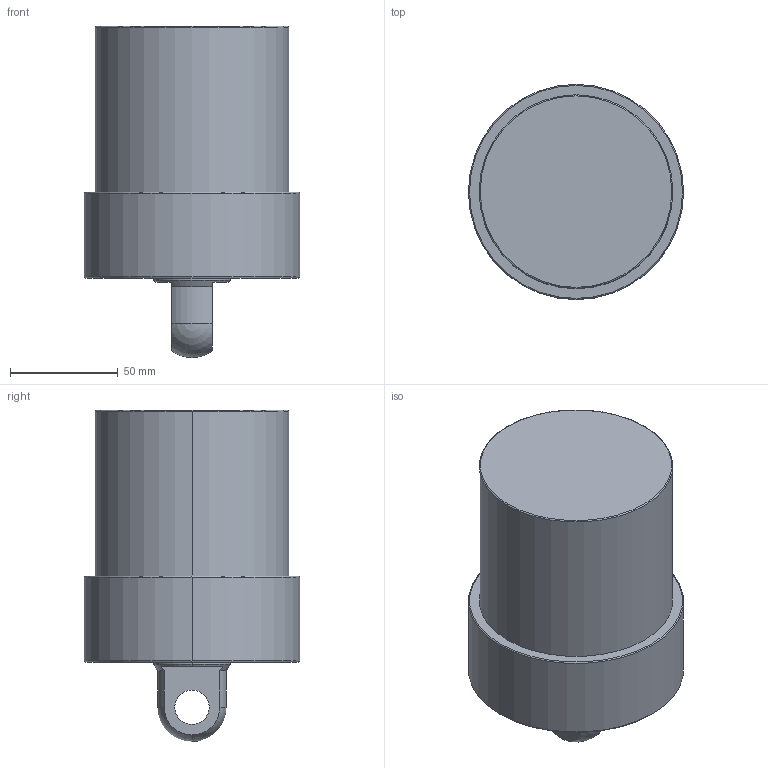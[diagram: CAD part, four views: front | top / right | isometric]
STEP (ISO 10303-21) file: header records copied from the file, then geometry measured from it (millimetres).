
FILE_DESCRIPTION (( 'STEP AP203' ), '1' );
FILE_NAME ('CLLU-090CP-055.STEP', '2020-01-13T03:26:46', ( '' ), ( '' ), 'SwSTEP 2.0', 'SolidWorks 2015', '' );
FILE_SCHEMA (( 'CONFIG_CONTROL_DESIGN' ));
Length unit declared in the file: millimetre
Products named in the file (1): CLLU-090CP-055
Bounding box: 100 x 100 x 154 mm (x, y, z)
Volume: 813695.9 mm3; surface area: 55906.1 mm2
Topology: 1 solids, 1 shells, 57 faces, 134 edges, 77 vertices
Faces by surface type: cylinder 22, cone 18, plane 9, torus 6, sphere 2
Entity records: 1643 total; most frequent: DIRECTION 308, CARTESIAN_POINT 267, ORIENTED_EDGE 244, AXIS2_PLACEMENT_3D 132, EDGE_CURVE 122, VERTEX_POINT 75, CIRCLE 74, EDGE_LOOP 67
